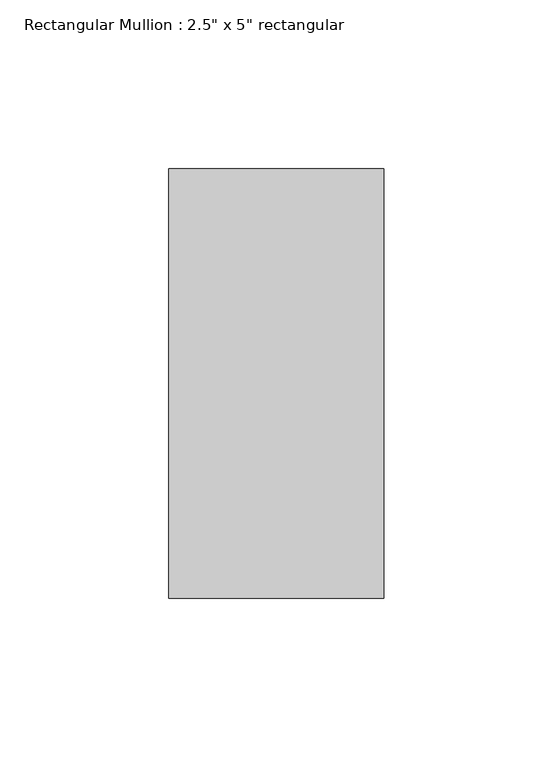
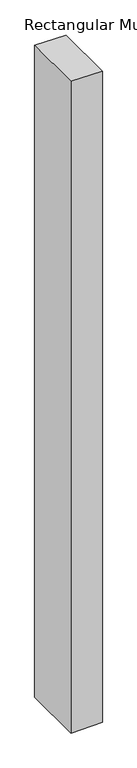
"""IFC4 building model written with IfcOpenShell, lengths in millimetres: member geometry."""

import ifcopenshell
import ifcopenshell.guid

model = None  # the IFC model being written
_history = None  # IfcOwnerHistory: only IFC2X3 demands one
_inside = {}  # id of a spatial element -> (the spatial element, [elements in it])
_under = {}  # id of a project, library or spatial element -> (it, [spatial elements below it])
_declared = {}  # id of a project -> (the project, [libraries it declares])
_typed = {}  # id of a type object -> (the type object, [elements of that type])
_made_of = {}  # id of a material, layer set ... -> (it, [elements and type objects made of it])


def new_model(schema):
    """Start an empty IFC model of exactly this schema.

    Asked for "IFC4X3", IfcOpenShell would pick the latest addendum, in which some entities
    have other attributes; the version numbers below select the first issue.
    IFC2X3 requires an IfcOwnerHistory on every rooted entity: one is made here for all.
    """
    global model, _history
    if schema == "IFC4X3":
        model = ifcopenshell.file(schema_version=(4, 3, 0, 0))
    else:
        model = ifcopenshell.file(schema=schema)
    _inside.clear()
    _under.clear()
    _declared.clear()
    _typed.clear()
    _made_of.clear()
    _history = None
    if model.schema == "IFC2X3":
        org = make("IfcOrganization", Name="unknown")
        user = make(
            "IfcPersonAndOrganization",
            ThePerson=make("IfcPerson", FamilyName="unknown"),
            TheOrganization=org,
        )
        app = make(
            "IfcApplication",
            ApplicationDeveloper=org,
            Version="unknown",
            ApplicationFullName="unknown",
            ApplicationIdentifier="unknown",
        )
        _history = make(
            "IfcOwnerHistory",
            OwningUser=user,
            OwningApplication=app,
            ChangeAction="ADDED",
            CreationDate=0,
        )
    return model


def make(cls, **values):
    """One entity of the class cls with the attributes given. An attribute that is None is left unset."""
    return model.create_entity(
        cls, **{name: value for name, value in values.items() if value is not None}
    )


def rooted(cls, **values):
    """An entity with a GlobalId (a new one), such as an element, a storey or a relation."""
    return make(cls, GlobalId=ifcopenshell.guid.new(), OwnerHistory=_history, **values)


def si_unit(unit_type, name, prefix=None):
    """IfcSIUnit, for example si_unit("LENGTHUNIT", "METRE", prefix="MILLI")."""
    return make("IfcSIUnit", UnitType=unit_type, Prefix=prefix, Name=name)


def assignment(units):
    """IfcUnitAssignment: the units of a project."""
    return None if units is None else make("IfcUnitAssignment", Units=units)


def point(xyz):
    """IfcCartesianPoint."""
    return None if xyz is None else make("IfcCartesianPoint", Coordinates=xyz)


def direction(xyz):
    """IfcDirection."""
    return None if xyz is None else make("IfcDirection", DirectionRatios=xyz)


def frame(location, z_axis=None, x_axis=None):
    """IfcAxis2Placement3D, a coordinate frame: its origin and axes. An axis left out is left unset."""
    return make(
        "IfcAxis2Placement3D",
        Location=point(location),
        Axis=direction(z_axis),
        RefDirection=direction(x_axis),
    )


def origin():
    """The frame at (0, 0, 0) with its axes left unset."""
    return frame((0.0, 0.0, 0.0))


def place(relative_to, where):
    """IfcLocalPlacement: puts the frame where relative to a parent placement (None: the world)."""
    return make(
        "IfcLocalPlacement", PlacementRelTo=relative_to, RelativePlacement=where
    )


def context(
    kind, dimensions, precision=None, world=None, true_north=None, identifier=None
):
    """IfcGeometricRepresentationContext, for example the 3D "Model" context."""
    return make(
        "IfcGeometricRepresentationContext",
        ContextIdentifier=identifier,
        ContextType=kind,
        CoordinateSpaceDimension=dimensions,
        Precision=precision,
        WorldCoordinateSystem=world,
        TrueNorth=true_north,
    )


def project(units=None, contexts=None):
    """IfcProject with its units and contexts."""
    return rooted(
        "IfcProject",
        Name="project",
        RepresentationContexts=contexts,
        UnitsInContext=assignment(units),
    )


def spatial(cls, under=None, at=None, **own):
    """A site, building, storey or space (cls), placed at a placement, below another one or the project."""
    s = rooted(cls, ObjectPlacement=at, **own)
    if under is not None:
        _under.setdefault(under.id(), (under, []))[1].append(s)
    return s


def polyline(points):
    """IfcPolyline through the points."""
    return make("IfcPolyline", Points=[point(p) for p in points])


def outline(outer, holes=None, kind="AREA"):
    """IfcArbitraryClosedProfileDef: a profile drawn as a closed curve; with holes, ...WithVoids."""
    if holes is None:
        return make("IfcArbitraryClosedProfileDef", ProfileType=kind, OuterCurve=outer)
    return make(
        "IfcArbitraryProfileDefWithVoids",
        ProfileType=kind,
        OuterCurve=outer,
        InnerCurves=holes,
    )


def extrude(swept, where, along, depth):
    """IfcExtrudedAreaSolid: the profile swept, set in the frame where, extruded along a direction by depth."""
    return make(
        "IfcExtrudedAreaSolid",
        SweptArea=swept,
        Position=where,
        ExtrudedDirection=direction(along),
        Depth=depth,
    )


def shape(context_of_items, identifier, shape_type, items):
    """IfcShapeRepresentation: the items that make up one representation, for example the "Body"."""
    return make(
        "IfcShapeRepresentation",
        ContextOfItems=context_of_items,
        RepresentationIdentifier=identifier,
        RepresentationType=shape_type,
        Items=items,
    )


def source(mapping_origin, context_of_items, identifier, shape_type, items):
    """IfcRepresentationMap: a shape defined once, which mapped items show again and again."""
    return make(
        "IfcRepresentationMap",
        MappingOrigin=mapping_origin,
        MappedRepresentation=shape(context_of_items, identifier, shape_type, items),
    )


def transform(
    local_origin,
    x_axis=None,
    y_axis=None,
    z_axis=None,
    scale=None,
    scale2=None,
    scale3=None,
    uniform=True,
):
    """IfcCartesianTransformationOperator3D, or its non-uniform kind. x_axis, y_axis, z_axis: its Axis1, 2, 3."""
    if uniform:
        return make(
            "IfcCartesianTransformationOperator3D",
            Axis1=direction(x_axis),
            Axis2=direction(y_axis),
            LocalOrigin=point(local_origin),
            Scale=scale,
            Axis3=direction(z_axis),
        )
    return make(
        "IfcCartesianTransformationOperator3DnonUniform",
        Axis1=direction(x_axis),
        Axis2=direction(y_axis),
        LocalOrigin=point(local_origin),
        Scale=scale,
        Axis3=direction(z_axis),
        Scale2=scale2,
        Scale3=scale3,
    )


def mapped(mapping_source, mapping_target):
    """IfcMappedItem: shows the shape of a source again, moved by a transform."""
    return make(
        "IfcMappedItem", MappingSource=mapping_source, MappingTarget=mapping_target
    )


def made_of(thing, what):
    """Note that an element or type object is made of a material, layer set ...; save() writes the relation."""
    if what is not None:
        _made_of.setdefault(what.id(), (what, []))[1].append(thing)
    return thing


def element(
    cls,
    number,
    at=None,
    inside=None,
    cuts=None,
    type_object=None,
    material=None,
    context=None,
    identifier="Body",
    shape_type=None,
    held_by="IfcProductDefinitionShape",
    body=None,
    shapes=None,
    **own,
):
    """One element of the class cls, such as IfcWall. Its Tag is "e" and its number.

    at: its placement. inside: the storey or other place that contains it. cuts: it is an
    opening in that element (IfcRelVoidsElement). A single representation is given by context,
    identifier, shape_type and body (its items); several are given by shapes. held_by: the class
    of the entity that holds the representations. save() writes the other relations.
    """
    e = rooted(cls, Tag="e%d" % number, ObjectPlacement=at, **own)
    if body is not None:
        shapes = [shape(context, identifier, shape_type, body)]
    if shapes is not None:
        e.Representation = make(held_by, Representations=shapes)
    if inside is not None:
        _inside.setdefault(inside.id(), (inside, []))[1].append(e)
    if cuts is not None:
        rooted(
            "IfcRelVoidsElement", RelatingBuildingElement=cuts, RelatedOpeningElement=e
        )
    if type_object is not None:
        _typed.setdefault(type_object.id(), (type_object, []))[1].append(e)
    return made_of(e, material)


def aggregate(whole, parts):
    """IfcRelAggregates: a whole, such as a stair, and the parts it consists of."""
    return rooted("IfcRelAggregates", RelatingObject=whole, RelatedObjects=parts)


def save(model, path):
    """Write the relations noted so far, then the file.

    IfcRelAggregates (storeys below a building ...), IfcRelContainedInSpatialStructure (elements
    in a storey), IfcRelDefinesByType, IfcRelAssociatesMaterial and IfcRelDeclares: one each for
    every whole, place, type object, material and project.
    """
    for whole, parts in _under.values():
        aggregate(whole, parts)
    for where, things in _inside.values():
        rooted(
            "IfcRelContainedInSpatialStructure",
            RelatedElements=things,
            RelatingStructure=where,
        )
    for kind, things in _typed.values():
        rooted("IfcRelDefinesByType", RelatedObjects=things, RelatingType=kind)
    for what, things in _made_of.values():
        rooted("IfcRelAssociatesMaterial", RelatedObjects=things, RelatingMaterial=what)
    for by, libraries in _declared.values():
        rooted("IfcRelDeclares", RelatingContext=by, RelatedDefinitions=libraries)
    model.write(path)


def member_4b62aec2(model_context):
    return source(origin(), model_context, "Body", "SweptSolid", [
        extrude(outline(polyline([(0.0, 0.0), (0.6937281, -63.5), (-1392.5664911, -63.5), (-1391.5610608, 0.0), (0.0, 0.0)])), frame((0.0, -63.5, 0.0), z_axis=(0.0, 1.0, 0.0), x_axis=(0.0, 0.0, 1.0)), (0.0, 0.0, 1.0), 127.0),
    ])


if __name__ == "__main__":
    model = new_model("IFC4")
    model_context = context("Model", 3, world=origin())
    ifc_project = project(units=[si_unit("LENGTHUNIT", "METRE", prefix="MILLI")], contexts=[model_context])
    site = spatial("IfcSite", under=ifc_project)
    building = spatial("IfcBuilding", under=site)
    placement = place(None, origin())
    member_shape = member_4b62aec2(model_context)
    element("IfcMember", 1, ObjectType="Rectangular Mullion : 2.5\" x 5\" rectangular", at=placement, inside=building, context=model_context, shape_type="MappedRepresentation", body=[
        mapped(member_shape, transform((0.0, 0.0, 0.0), x_axis=(1.0, 0.0, 0.0), y_axis=(0.0, 1.0, 0.0), z_axis=(0.0, 0.0, 1.0))),
    ])
    save(model, "model.ifc")
